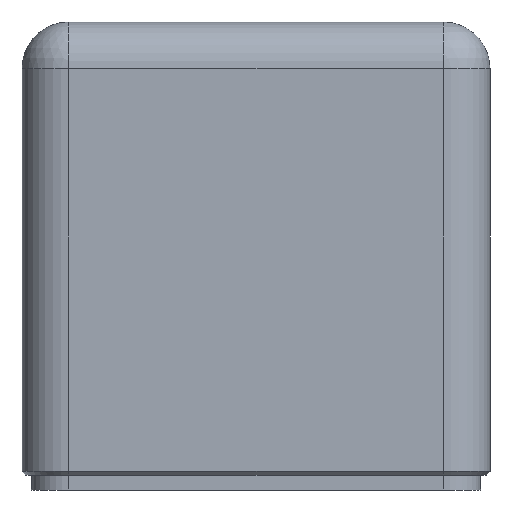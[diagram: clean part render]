
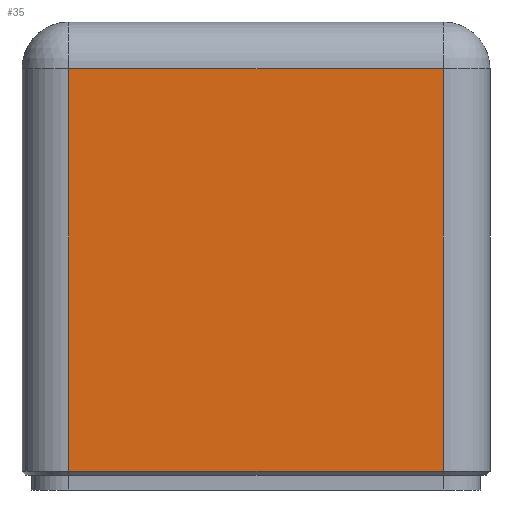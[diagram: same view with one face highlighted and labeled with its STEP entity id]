
A CAD part, left-side view. The second image highlights one B-rep face of the part: STEP entity #35.
In plain terms, the highlighted planar face has unit normal (-1, 0, 0).
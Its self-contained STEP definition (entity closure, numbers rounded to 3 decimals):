
#35 = ADVANCED_FACE('',(#36),#50,.F.);
#36 = FACE_BOUND('',#37,.F.);
#37 = EDGE_LOOP('',(#38,#73,#101,#129));
#38 = ORIENTED_EDGE('',*,*,#39,.F.);
#39 = EDGE_CURVE('',#40,#42,#44,.T.);
#40 = VERTEX_POINT('',#41);
#41 = CARTESIAN_POINT('',(-12.5,-10.,1.));
#42 = VERTEX_POINT('',#43);
#43 = CARTESIAN_POINT('',(-12.5,-10.,22.5));
#44 = SURFACE_CURVE('',#45,(#49,#61),.PCURVE_S1.);
#45 = LINE('',#46,#47);
#46 = CARTESIAN_POINT('',(-12.5,-10.,0.8));
#47 = VECTOR('',#48,1.);
#48 = DIRECTION('',(0.,0.,1.));
#49 = PCURVE('',#50,#55);
#50 = PLANE('',#51);
#51 = AXIS2_PLACEMENT_3D('',#52,#53,#54);
#52 = CARTESIAN_POINT('',(-12.5,-12.5,0.8));
#53 = DIRECTION('',(1.,0.,-0.));
#54 = DIRECTION('',(0.,0.,1.));
#55 = DEFINITIONAL_REPRESENTATION('',(#56),#60);
#56 = LINE('',#57,#58);
#57 = CARTESIAN_POINT('',(0.,-2.5));
#58 = VECTOR('',#59,1.);
#59 = DIRECTION('',(1.,0.));
#60 = ( GEOMETRIC_REPRESENTATION_CONTEXT(2) 
PARAMETRIC_REPRESENTATION_CONTEXT() REPRESENTATION_CONTEXT('2D SPACE',''
  ) );
#61 = PCURVE('',#62,#67);
#62 = CYLINDRICAL_SURFACE('',#63,2.5);
#63 = AXIS2_PLACEMENT_3D('',#64,#65,#66);
#64 = CARTESIAN_POINT('',(-10.,-10.,0.8));
#65 = DIRECTION('',(0.,0.,1.));
#66 = DIRECTION('',(-1.,-0.,0.));
#67 = DEFINITIONAL_REPRESENTATION('',(#68),#72);
#68 = LINE('',#69,#70);
#69 = CARTESIAN_POINT('',(0.,0.));
#70 = VECTOR('',#71,1.);
#71 = DIRECTION('',(0.,1.));
#72 = ( GEOMETRIC_REPRESENTATION_CONTEXT(2) 
PARAMETRIC_REPRESENTATION_CONTEXT() REPRESENTATION_CONTEXT('2D SPACE',''
  ) );
#73 = ORIENTED_EDGE('',*,*,#74,.T.);
#74 = EDGE_CURVE('',#40,#75,#77,.T.);
#75 = VERTEX_POINT('',#76);
#76 = CARTESIAN_POINT('',(-12.5,10.,1.));
#77 = SURFACE_CURVE('',#78,(#82,#89),.PCURVE_S1.);
#78 = LINE('',#79,#80);
#79 = CARTESIAN_POINT('',(-12.5,-10.,1.));
#80 = VECTOR('',#81,1.);
#81 = DIRECTION('',(-0.,1.,0.));
#82 = PCURVE('',#50,#83);
#83 = DEFINITIONAL_REPRESENTATION('',(#84),#88);
#84 = LINE('',#85,#86);
#85 = CARTESIAN_POINT('',(0.2,-2.5));
#86 = VECTOR('',#87,1.);
#87 = DIRECTION('',(0.,-1.));
#88 = ( GEOMETRIC_REPRESENTATION_CONTEXT(2) 
PARAMETRIC_REPRESENTATION_CONTEXT() REPRESENTATION_CONTEXT('2D SPACE',''
  ) );
#89 = PCURVE('',#90,#95);
#90 = PLANE('',#91);
#91 = AXIS2_PLACEMENT_3D('',#92,#93,#94);
#92 = CARTESIAN_POINT('',(-12.4,-10.,0.9));
#93 = DIRECTION('',(-0.707,0.,-0.707));
#94 = DIRECTION('',(0.,1.,0.));
#95 = DEFINITIONAL_REPRESENTATION('',(#96),#100);
#96 = LINE('',#97,#98);
#97 = CARTESIAN_POINT('',(0.,-0.141));
#98 = VECTOR('',#99,1.);
#99 = DIRECTION('',(1.,0.));
#100 = ( GEOMETRIC_REPRESENTATION_CONTEXT(2) 
PARAMETRIC_REPRESENTATION_CONTEXT() REPRESENTATION_CONTEXT('2D SPACE',''
  ) );
#101 = ORIENTED_EDGE('',*,*,#102,.T.);
#102 = EDGE_CURVE('',#75,#103,#105,.T.);
#103 = VERTEX_POINT('',#104);
#104 = CARTESIAN_POINT('',(-12.5,10.,22.5));
#105 = SURFACE_CURVE('',#106,(#110,#117),.PCURVE_S1.);
#106 = LINE('',#107,#108);
#107 = CARTESIAN_POINT('',(-12.5,10.,0.8));
#108 = VECTOR('',#109,1.);
#109 = DIRECTION('',(0.,0.,1.));
#110 = PCURVE('',#50,#111);
#111 = DEFINITIONAL_REPRESENTATION('',(#112),#116);
#112 = LINE('',#113,#114);
#113 = CARTESIAN_POINT('',(0.,-22.5));
#114 = VECTOR('',#115,1.);
#115 = DIRECTION('',(1.,0.));
#116 = ( GEOMETRIC_REPRESENTATION_CONTEXT(2) 
PARAMETRIC_REPRESENTATION_CONTEXT() REPRESENTATION_CONTEXT('2D SPACE',''
  ) );
#117 = PCURVE('',#118,#123);
#118 = CYLINDRICAL_SURFACE('',#119,2.5);
#119 = AXIS2_PLACEMENT_3D('',#120,#121,#122);
#120 = CARTESIAN_POINT('',(-10.,10.,0.8));
#121 = DIRECTION('',(0.,0.,1.));
#122 = DIRECTION('',(-1.,-0.,0.));
#123 = DEFINITIONAL_REPRESENTATION('',(#124),#128);
#124 = LINE('',#125,#126);
#125 = CARTESIAN_POINT('',(-0.,0.));
#126 = VECTOR('',#127,1.);
#127 = DIRECTION('',(-0.,1.));
#128 = ( GEOMETRIC_REPRESENTATION_CONTEXT(2) 
PARAMETRIC_REPRESENTATION_CONTEXT() REPRESENTATION_CONTEXT('2D SPACE',''
  ) );
#129 = ORIENTED_EDGE('',*,*,#130,.F.);
#130 = EDGE_CURVE('',#42,#103,#131,.T.);
#131 = SURFACE_CURVE('',#132,(#136,#143),.PCURVE_S1.);
#132 = LINE('',#133,#134);
#133 = CARTESIAN_POINT('',(-12.5,-10.,22.5));
#134 = VECTOR('',#135,1.);
#135 = DIRECTION('',(-0.,1.,0.));
#136 = PCURVE('',#50,#137);
#137 = DEFINITIONAL_REPRESENTATION('',(#138),#142);
#138 = LINE('',#139,#140);
#139 = CARTESIAN_POINT('',(21.7,-2.5));
#140 = VECTOR('',#141,1.);
#141 = DIRECTION('',(0.,-1.));
#142 = ( GEOMETRIC_REPRESENTATION_CONTEXT(2) 
PARAMETRIC_REPRESENTATION_CONTEXT() REPRESENTATION_CONTEXT('2D SPACE',''
  ) );
#143 = PCURVE('',#144,#149);
#144 = CYLINDRICAL_SURFACE('',#145,2.5);
#145 = AXIS2_PLACEMENT_3D('',#146,#147,#148);
#146 = CARTESIAN_POINT('',(-10.,-10.,22.5));
#147 = DIRECTION('',(-0.,1.,0.));
#148 = DIRECTION('',(-1.,-0.,0.));
#149 = DEFINITIONAL_REPRESENTATION('',(#150),#154);
#150 = LINE('',#151,#152);
#151 = CARTESIAN_POINT('',(0.,0.));
#152 = VECTOR('',#153,1.);
#153 = DIRECTION('',(0.,1.));
#154 = ( GEOMETRIC_REPRESENTATION_CONTEXT(2) 
PARAMETRIC_REPRESENTATION_CONTEXT() REPRESENTATION_CONTEXT('2D SPACE',''
  ) );
